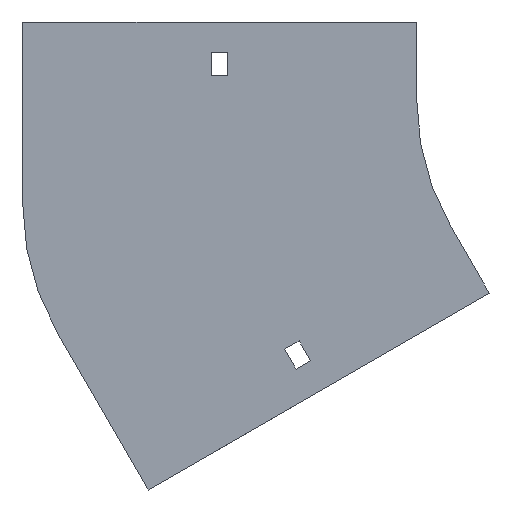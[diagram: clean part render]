
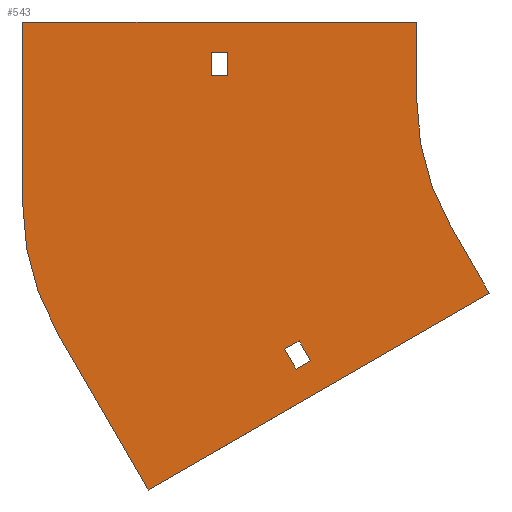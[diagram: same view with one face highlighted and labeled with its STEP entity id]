
A CAD part, front view. The second image highlights one B-rep face of the part: STEP entity #543.
In plain terms, the highlighted planar face has unit normal (0, -1, 0).
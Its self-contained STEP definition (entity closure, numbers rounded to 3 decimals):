
#3 = CARTESIAN_POINT ( 'NONE',  ( -173.75, 0., 9. ) ) ;
#18 = CARTESIAN_POINT ( 'NONE',  ( -180.25, 0., 18. ) ) ;
#32 = DIRECTION ( 'NONE',  ( 0., 0., -1. ) ) ;
#34 = EDGE_CURVE ( 'NONE', #1398, #318, #1826, .T. ) ;
#46 = EDGE_CURVE ( 'NONE', #864, #1398, #898, .T. ) ;
#69 = CARTESIAN_POINT ( 'NONE',  ( -204.97, 0., -152.981 ) ) ;
#70 = VECTOR ( 'NONE', #1011, 1000. ) ;
#78 = EDGE_CURVE ( 'NONE', #318, #1250, #1143, .T. ) ;
#90 = VERTEX_POINT ( 'NONE', #389 ) ;
#104 = EDGE_CURVE ( 'NONE', #1003, #594, #1061, .T. ) ;
#131 = EDGE_CURVE ( 'NONE', #1468, #1215, #712, .T. ) ;
#142 = CARTESIAN_POINT ( 'NONE',  ( -180.25, 0., 9. ) ) ;
#169 = CARTESIAN_POINT ( 'NONE',  ( -71.603, 0., -75.981 ) ) ;
#175 = DIRECTION ( 'NONE',  ( 0., 0., 1. ) ) ;
#176 = CARTESIAN_POINT ( 'NONE',  ( -86.603, 0., -50. ) ) ;
#186 = EDGE_CURVE ( 'NONE', #860, #1468, #1161, .T. ) ;
#205 = EDGE_LOOP ( 'NONE', ( #1615, #1419, #515, #764 ) ) ;
#234 = CARTESIAN_POINT ( 'NONE',  ( -254., 0., 30. ) ) ;
#242 = ORIENTED_EDGE ( 'NONE', *, *, #104, .F. ) ;
#262 = CIRCLE ( 'NONE', #1385, 100. ) ;
#269 = ORIENTED_EDGE ( 'NONE', *, *, #34, .F. ) ;
#283 = LINE ( 'NONE', #18, #569 ) ;
#288 = CARTESIAN_POINT ( 'NONE',  ( -147.101, 0., -105.713 ) ) ;
#293 = DIRECTION ( 'NONE',  ( -0.866, 0., -0.5 ) ) ;
#315 = DIRECTION ( 'NONE',  ( 1., 0., 0. ) ) ;
#318 = VERTEX_POINT ( 'NONE', #493 ) ;
#340 = FACE_OUTER_BOUND ( 'NONE', #1020, .T. ) ;
#348 = FACE_BOUND ( 'NONE', #205, .T. ) ;
#379 = CARTESIAN_POINT ( 'NONE',  ( -173.75, 0., 18. ) ) ;
#383 = ORIENTED_EDGE ( 'NONE', *, *, #1858, .F. ) ;
#389 = CARTESIAN_POINT ( 'NONE',  ( -147.101, 0., -105.713 ) ) ;
#415 = ORIENTED_EDGE ( 'NONE', *, *, #1132, .T. ) ;
#437 = DIRECTION ( 'NONE',  ( 0.866, 0., 0.5 ) ) ;
#454 = DIRECTION ( 'NONE',  ( 0., 0., 1. ) ) ;
#457 = EDGE_CURVE ( 'NONE', #90, #860, #1180, .T. ) ;
#487 = DIRECTION ( 'NONE',  ( -1., 0., 0. ) ) ;
#493 = CARTESIAN_POINT ( 'NONE',  ( -254., 0., 30. ) ) ;
#515 = ORIENTED_EDGE ( 'NONE', *, *, #131, .F. ) ;
#543 = ADVANCED_FACE ( 'NONE', ( #1088, #340, #348 ), #650, .T. ) ;
#562 = CARTESIAN_POINT ( 'NONE',  ( -71.603, 0., -75.981 ) ) ;
#569 = VECTOR ( 'NONE', #315, 1000. ) ;
#585 = LINE ( 'NONE', #1494, #672 ) ;
#587 = DIRECTION ( 'NONE',  ( 0., 0., -1. ) ) ;
#592 = CARTESIAN_POINT ( 'NONE',  ( -173.75, 0., 9. ) ) ;
#593 = ORIENTED_EDGE ( 'NONE', *, *, #1853, .T. ) ;
#594 = VERTEX_POINT ( 'NONE', #69 ) ;
#595 = CARTESIAN_POINT ( 'NONE',  ( -100., 0., 30. ) ) ;
#619 = DIRECTION ( 'NONE',  ( 0., 0., -1. ) ) ;
#638 = DIRECTION ( 'NONE',  ( 0.5, 0., -0.866 ) ) ;
#650 = PLANE ( 'NONE',  #1421 ) ;
#665 = EDGE_CURVE ( 'NONE', #1884, #1194, #1395, .T. ) ;
#672 = VECTOR ( 'NONE', #487, 1000. ) ;
#685 = VERTEX_POINT ( 'NONE', #1202 ) ;
#712 = LINE ( 'NONE', #1670, #1504 ) ;
#728 = VECTOR ( 'NONE', #587, 1000. ) ;
#732 = ORIENTED_EDGE ( 'NONE', *, *, #787, .T. ) ;
#736 = CARTESIAN_POINT ( 'NONE',  ( -151.601, 0., -97.919 ) ) ;
#750 = CARTESIAN_POINT ( 'NONE',  ( -145.972, 0., -94.669 ) ) ;
#753 = DIRECTION ( 'NONE',  ( 0., 0., 1. ) ) ;
#759 = DIRECTION ( 'NONE',  ( -0.866, 0., -0.5 ) ) ;
#764 = ORIENTED_EDGE ( 'NONE', *, *, #186, .F. ) ;
#765 = EDGE_LOOP ( 'NONE', ( #1320, #415, #732, #593 ) ) ;
#775 = LINE ( 'NONE', #1839, #70 ) ;
#787 = EDGE_CURVE ( 'NONE', #1748, #1505, #1405, .T. ) ;
#805 = VECTOR ( 'NONE', #759, 1000. ) ;
#806 = CARTESIAN_POINT ( 'NONE',  ( 0., 0., 0. ) ) ;
#819 = VERTEX_POINT ( 'NONE', #1280 ) ;
#860 = VERTEX_POINT ( 'NONE', #1863 ) ;
#864 = VERTEX_POINT ( 'NONE', #1085 ) ;
#878 = CARTESIAN_POINT ( 'NONE',  ( 0., 0., 0. ) ) ;
#893 = VECTOR ( 'NONE', #638, 1000. ) ;
#898 = CIRCLE ( 'NONE', #956, 100. ) ;
#900 = DIRECTION ( 'NONE',  ( 0., 1., 0. ) ) ;
#956 = AXIS2_PLACEMENT_3D ( 'NONE', #1651, #900, #454 ) ;
#958 = EDGE_CURVE ( 'NONE', #685, #819, #262, .T. ) ;
#986 = CARTESIAN_POINT ( 'NONE',  ( -254., 0., -41.264 ) ) ;
#1003 = VERTEX_POINT ( 'NONE', #562 ) ;
#1011 = DIRECTION ( 'NONE',  ( -0.5, 0., 0.866 ) ) ;
#1014 = ORIENTED_EDGE ( 'NONE', *, *, #958, .F. ) ;
#1020 = EDGE_LOOP ( 'NONE', ( #1549, #269, #1378, #1075, #242, #383, #1014, #1737 ) ) ;
#1047 = LINE ( 'NONE', #595, #728 ) ;
#1050 = CARTESIAN_POINT ( 'NONE',  ( -180.25, 0., 18. ) ) ;
#1061 = LINE ( 'NONE', #169, #805 ) ;
#1075 = ORIENTED_EDGE ( 'NONE', *, *, #1906, .F. ) ;
#1083 = VECTOR ( 'NONE', #1604, 1000. ) ;
#1085 = CARTESIAN_POINT ( 'NONE',  ( -240.603, 0., -91.264 ) ) ;
#1088 = FACE_BOUND ( 'NONE', #765, .T. ) ;
#1118 = CARTESIAN_POINT ( 'NONE',  ( -100., 0., 30. ) ) ;
#1132 = EDGE_CURVE ( 'NONE', #1194, #1748, #283, .T. ) ;
#1143 = LINE ( 'NONE', #234, #1083 ) ;
#1161 = LINE ( 'NONE', #750, #1686 ) ;
#1180 = LINE ( 'NONE', #288, #1743 ) ;
#1192 = DIRECTION ( 'NONE',  ( 0.5, 0., -0.866 ) ) ;
#1194 = VERTEX_POINT ( 'NONE', #1050 ) ;
#1202 = CARTESIAN_POINT ( 'NONE',  ( -100., 0., 0. ) ) ;
#1215 = VERTEX_POINT ( 'NONE', #1403 ) ;
#1226 = VECTOR ( 'NONE', #32, 1000. ) ;
#1250 = VERTEX_POINT ( 'NONE', #1118 ) ;
#1277 = VECTOR ( 'NONE', #1192, 1000. ) ;
#1280 = CARTESIAN_POINT ( 'NONE',  ( -86.603, 0., -50. ) ) ;
#1284 = VECTOR ( 'NONE', #753, 1000. ) ;
#1289 = CARTESIAN_POINT ( 'NONE',  ( -145.972, 0., -94.669 ) ) ;
#1310 = DIRECTION ( 'NONE',  ( 0., -1., 0. ) ) ;
#1320 = ORIENTED_EDGE ( 'NONE', *, *, #665, .T. ) ;
#1347 = LINE ( 'NONE', #736, #893 ) ;
#1378 = ORIENTED_EDGE ( 'NONE', *, *, #46, .F. ) ;
#1385 = AXIS2_PLACEMENT_3D ( 'NONE', #878, #1310, #1469 ) ;
#1395 = LINE ( 'NONE', #142, #1566 ) ;
#1398 = VERTEX_POINT ( 'NONE', #986 ) ;
#1403 = CARTESIAN_POINT ( 'NONE',  ( -151.601, 0., -97.919 ) ) ;
#1405 = LINE ( 'NONE', #592, #1226 ) ;
#1419 = ORIENTED_EDGE ( 'NONE', *, *, #1882, .F. ) ;
#1421 = AXIS2_PLACEMENT_3D ( 'NONE', #806, #1857, #619 ) ;
#1468 = VERTEX_POINT ( 'NONE', #1289 ) ;
#1469 = DIRECTION ( 'NONE',  ( 0., 0., -1. ) ) ;
#1470 = DIRECTION ( 'NONE',  ( -0.5, 0., 0.866 ) ) ;
#1494 = CARTESIAN_POINT ( 'NONE',  ( -180.25, 0., 9. ) ) ;
#1504 = VECTOR ( 'NONE', #293, 1000. ) ;
#1505 = VERTEX_POINT ( 'NONE', #3 ) ;
#1523 = EDGE_CURVE ( 'NONE', #1250, #685, #1047, .T. ) ;
#1549 = ORIENTED_EDGE ( 'NONE', *, *, #78, .F. ) ;
#1566 = VECTOR ( 'NONE', #175, 1000. ) ;
#1604 = DIRECTION ( 'NONE',  ( 1., 0., 0. ) ) ;
#1615 = ORIENTED_EDGE ( 'NONE', *, *, #457, .F. ) ;
#1651 = CARTESIAN_POINT ( 'NONE',  ( -154., 0., -41.264 ) ) ;
#1670 = CARTESIAN_POINT ( 'NONE',  ( -151.601, 0., -97.919 ) ) ;
#1686 = VECTOR ( 'NONE', #1470, 1000. ) ;
#1737 = ORIENTED_EDGE ( 'NONE', *, *, #1523, .F. ) ;
#1743 = VECTOR ( 'NONE', #437, 1000. ) ;
#1748 = VERTEX_POINT ( 'NONE', #379 ) ;
#1775 = LINE ( 'NONE', #176, #1277 ) ;
#1826 = LINE ( 'NONE', #1836, #1284 ) ;
#1836 = CARTESIAN_POINT ( 'NONE',  ( -254., 0., -41.264 ) ) ;
#1839 = CARTESIAN_POINT ( 'NONE',  ( -204.97, 0., -152.981 ) ) ;
#1853 = EDGE_CURVE ( 'NONE', #1505, #1884, #585, .T. ) ;
#1857 = DIRECTION ( 'NONE',  ( 0., -1., 0. ) ) ;
#1858 = EDGE_CURVE ( 'NONE', #819, #1003, #1775, .T. ) ;
#1863 = CARTESIAN_POINT ( 'NONE',  ( -141.472, 0., -102.463 ) ) ;
#1882 = EDGE_CURVE ( 'NONE', #1215, #90, #1347, .T. ) ;
#1884 = VERTEX_POINT ( 'NONE', #1913 ) ;
#1906 = EDGE_CURVE ( 'NONE', #594, #864, #775, .T. ) ;
#1913 = CARTESIAN_POINT ( 'NONE',  ( -180.25, 0., 9. ) ) ;
